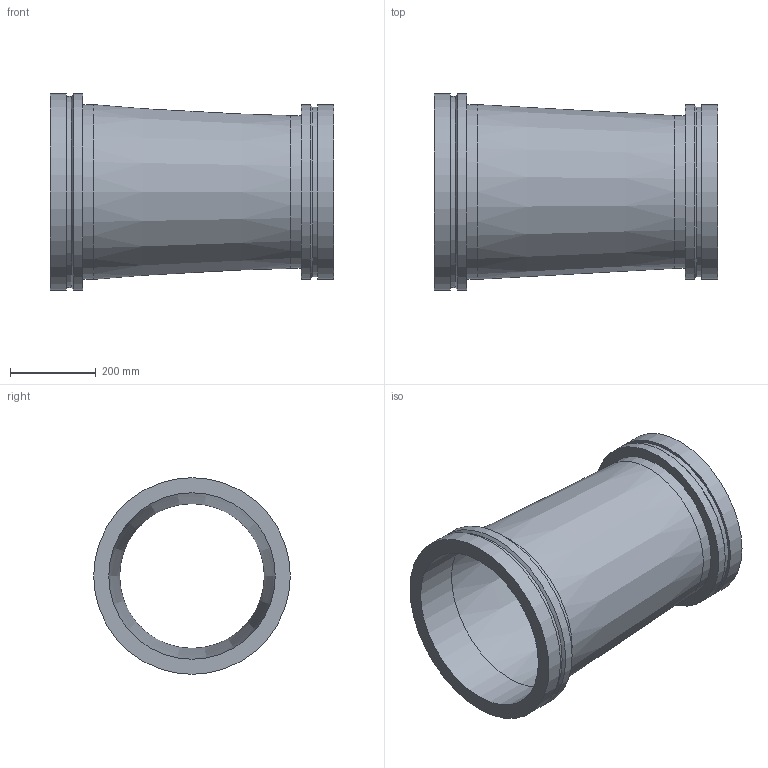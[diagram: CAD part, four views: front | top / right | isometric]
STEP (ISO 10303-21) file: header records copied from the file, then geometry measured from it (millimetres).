
FILE_DESCRIPTION(/* description */ ('VIC REDUCER CONCENTRIC No W50 VR','CAx-IF Rec.Pracs.---Representation and Presentation of Product Manufacturing Information (PMI)---4.0---2014-10-13'),/* implementation_level */ '2;1');
FILE_NAME(/* name */ 'C:\Users\kkamble\AppData\Roaming\Autodesk\ApplicationPlugins\Back Up\Victaulic_Vic-Ring_Reducer Concentric_No W50 VR (AGR)\Victaulic_Vic-Ring_Reducer Concentric_No W50 VR (AGR)_16.0x14.0 (400x350).stp',/* time_stamp */ '2020-09-10T11:45:14+05:00',/* author */ ('cps_temp'),/* organization */ ('Victaulic'),/* preprocessor_version */ 'ST-DEVELOPER v17.2',/* originating_system */ 'Autodesk Inventor 2019',/* authorisation */ '');
FILE_SCHEMA (('AP242_MANAGED_MODEL_BASED_3D_ENGINEERING_MIM_LF { 1 0 10303 442 1 1 4 }'));
Length unit declared in the file: inch
Products named in the file (1): W50 VR-16.0x14.0
Bounding box: 660.4 x 457.2 x 457.2 mm (x, y, z)
Volume: 12041534.7 mm3; surface area: 1743075.9 mm2
Topology: 1 solids, 1 shells, 20 faces, 54 edges, 40 vertices
Faces by surface type: cylinder 10, plane 6, cone 4
Full cylindrical faces by diameter (mm): 336.55 x1, 355.6 x1, 387.35 x1, 393.7 x1, 406.4 x3, 444.5 x1, 457.2 x2
Entity records: 830 total; most frequent: DIRECTION 162, CARTESIAN_POINT 132, ORIENTED_EDGE 108, AXIS2_PLACEMENT_3D 74, EDGE_CURVE 54, CIRCLE 40, VERTEX_POINT 40, EDGE_LOOP 26
